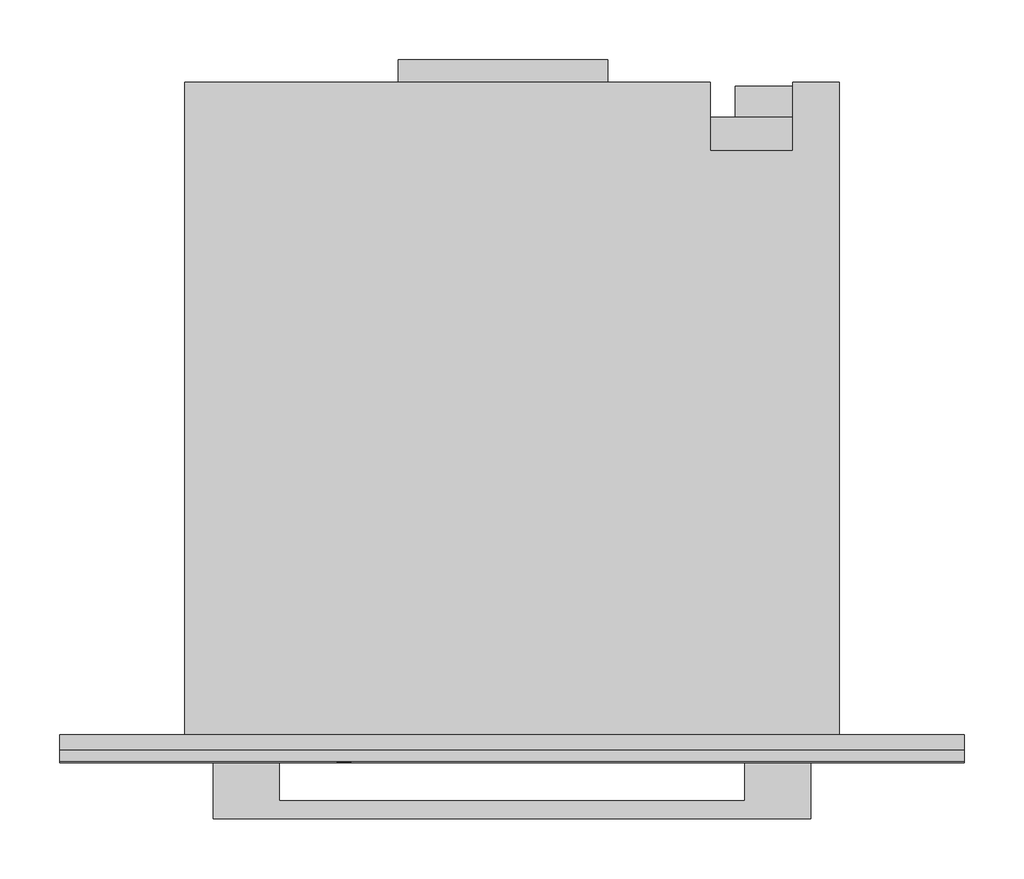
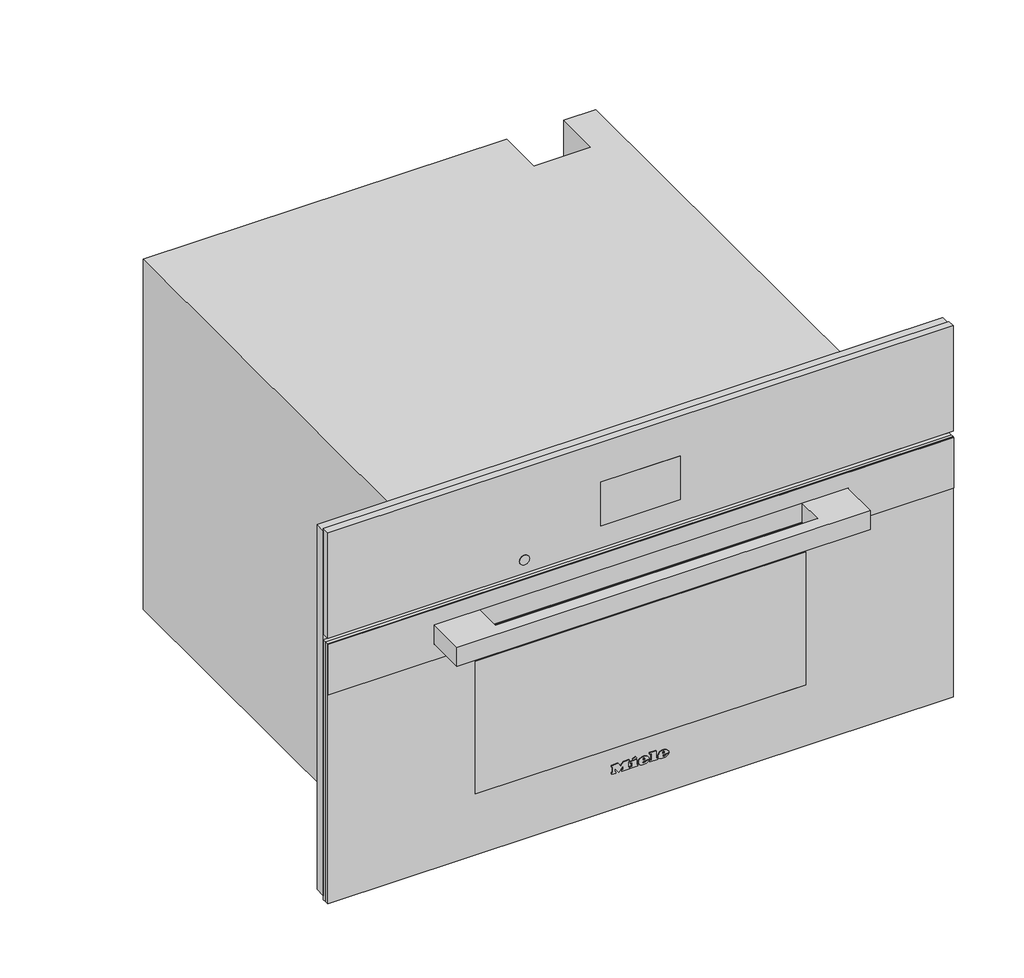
# Not in any storey: 1 proxy.
"""IFC4 building model written with IfcOpenShell, lengths in millimetres."""

from ifc_helpers import new_model, si_unit, origin, place, context, project, spatial, transform, mapped, element, save
from components import specialty_equipment_00b2a23c

model = new_model("IFC4")

# Units and contexts
model_context = context("Model", 3, world=origin())
ifc_project = project(units=[si_unit("LENGTHUNIT", "METRE", prefix="MILLI")], contexts=[model_context])

# Site, building
site = spatial("IfcSite", under=ifc_project)
building = spatial("IfcBuilding", under=site)

# Proxy
placement = place(None, origin())
specialty_equipment_shape = specialty_equipment_00b2a23c(model_context)
element("IfcBuildingElementProxy", 1, Name="11876210_USA_DGC7670_EDST-CLST : 23767042_USA_11876210_DGC7670_EDST-CLST", ObjectType="11876210_USA_DGC7670_EDST-CLST : 23767042_USA_11876210_DGC7670_EDST-CLST", at=placement, inside=building, context=model_context, shape_type="MappedRepresentation", body=[
    mapped(specialty_equipment_shape, transform((0.0, 0.0, 0.0), x_axis=(1.0, 0.0, 0.0), y_axis=(0.0, 1.0, 0.0), z_axis=(0.0, 0.0, 1.0))),
])

save(model, "model.ifc")
